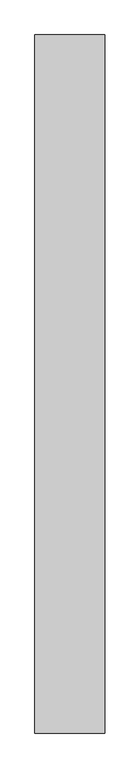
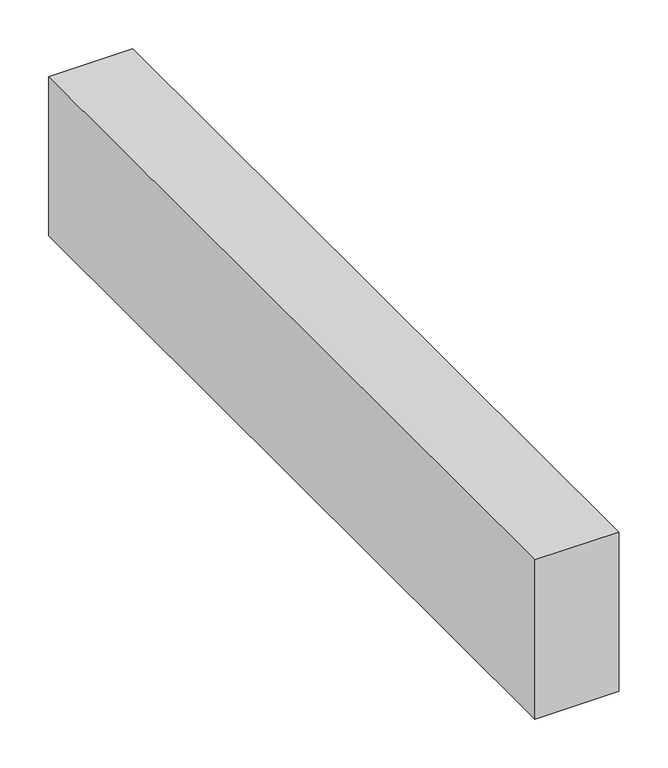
"""IFC4 building model written with IfcOpenShell, lengths in millimetres: railing geometry, BORDILLO_20115_TITAN_100x20x10."""

from ifc_helpers import new_model, si_unit, origin, origin_with_axes, place, context, project, spatial, polyline, outline, extrude, source, transform, mapped, element, save


def railing_72f3de1c(model_context):
    return source(origin(), model_context, "Body", "SweptSolid", [
        extrude(outline(polyline([(-2663.993975, 5896.2300366), (-2763.993975, 5896.2300366), (-2763.993975, 6896.2300366), (-2663.993975, 6896.2300366), (-2663.993975, 5896.2300366)])), origin_with_axes(), (0.0, 0.0, 1.0), 200.0),
    ])


if __name__ == "__main__":
    model = new_model("IFC4")
    model_context = context("Model", 3, world=origin())
    ifc_project = project(units=[si_unit("LENGTHUNIT", "METRE", prefix="MILLI")], contexts=[model_context])
    site = spatial("IfcSite", under=ifc_project)
    building = spatial("IfcBuilding", under=site)
    placement = place(None, origin())
    railing_shape = railing_72f3de1c(model_context)
    element("IfcRailing", 1, ObjectType="BORDILLO_20115_TITAN_100x20x10", at=placement, inside=building, context=model_context, shape_type="MappedRepresentation", body=[
        mapped(railing_shape, transform((0.0, 0.0, 0.0), x_axis=(1.0, 0.0, 0.0), y_axis=(0.0, 1.0, 0.0), z_axis=(0.0, 0.0, 1.0))),
    ])
    save(model, "model.ifc")
